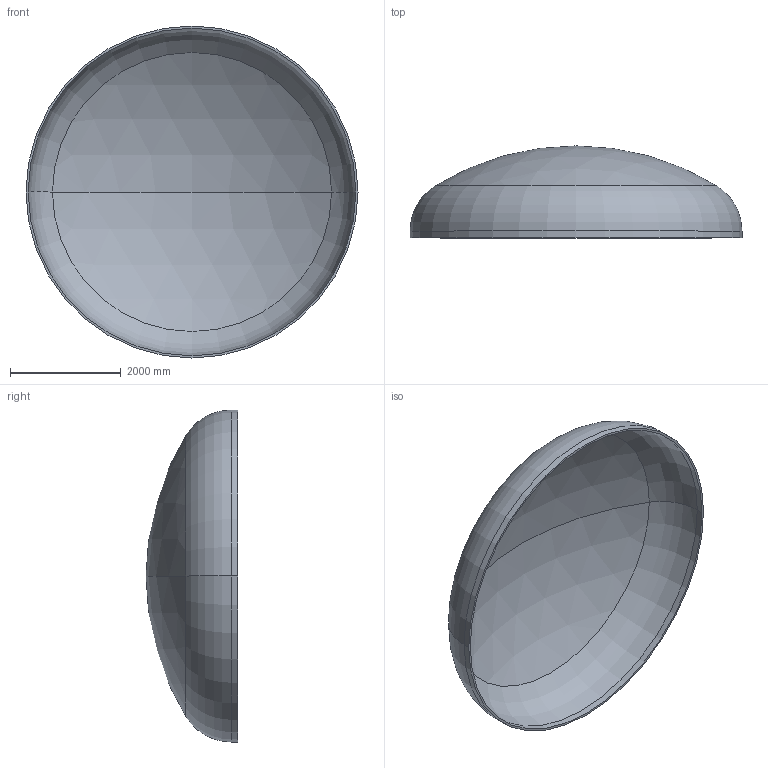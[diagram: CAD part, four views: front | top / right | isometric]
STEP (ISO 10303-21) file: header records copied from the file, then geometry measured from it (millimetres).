
FILE_DESCRIPTION (( 'STEP AP203' ), '1' );
FILE_NAME ('DIN 28013 Korbbogenform_-_Boden DIN 28013 - 6000 x 120 - I - s=39.step', '2016-07-04T10:36:52', ( '' ), ( '' ), 'SwSTEP 2.0', 'SolidWorks 2013', '' );
FILE_SCHEMA (( 'CONFIG_CONTROL_DESIGN' ));
Length unit declared in the file: millimetre
Products named in the file (1): DIN 28013 Korbbogenform_-_Boden DIN 28013 - 6000 x 120 - I - s=39
Bounding box: 6000 x 1661.98 x 6000 mm (x, y, z)
Volume: 1602142123.1 mm3; surface area: 82894642.6 mm2
Topology: 1 solids, 1 shells, 13 faces, 24 edges, 14 vertices
Faces by surface type: torus 4, cylinder 4, sphere 4, plane 1
Entity records: 407 total; most frequent: DIRECTION 72, CARTESIAN_POINT 52, ORIENTED_EDGE 48, AXIS2_PLACEMENT_3D 34, EDGE_CURVE 24, CIRCLE 20, VERTEX_POINT 14, EDGE_LOOP 14
